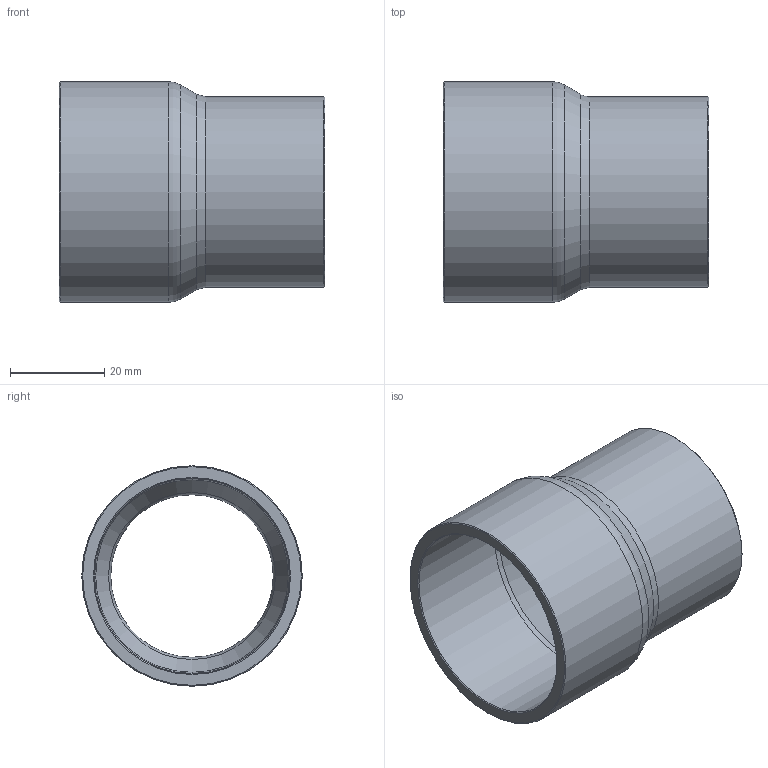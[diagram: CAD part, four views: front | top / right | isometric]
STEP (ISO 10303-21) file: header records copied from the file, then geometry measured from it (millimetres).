
FILE_DESCRIPTION((''),'2;1');
FILE_NAME('G:\SANHA-Ternat\Technik\Management\Bouwmaten + markeringen\z-maattekeningen 3D\29000s\29240158138_3d.stp','2017-08-04T11:55:19',('vdvijverd'),(''),'Autodesk Inventor 2009','Autodesk Inventor 2009','');
FILE_SCHEMA(('AUTOMOTIVE_DESIGN { 1 0 10303 214 1 1 1 1 }'));
Length unit declared in the file: millimetre
Products named in the file (1): 29240158138_3d
Bounding box: 56.5 x 46.85 x 46.85 mm (x, y, z)
Volume: 19944.2 mm3; surface area: 15326.7 mm2
Topology: 1 solids, 1 shells, 17 faces, 32 edges, 17 vertices
Faces by surface type: cone 6, cylinder 4, bspline 3, plane 2, torus 2
Full cylindrical faces by diameter (mm): 35.105 x1, 40.505 x1, 41.455 x1, 46.855 x1
Entity records: 494 total; most frequent: CARTESIAN_POINT 184, DIRECTION 64, ORIENTED_EDGE 34, EDGE_LOOP 34, AXIS2_PLACEMENT_3D 32, VERTEX_POINT 17, CIRCLE 17, EDGE_CURVE 17
